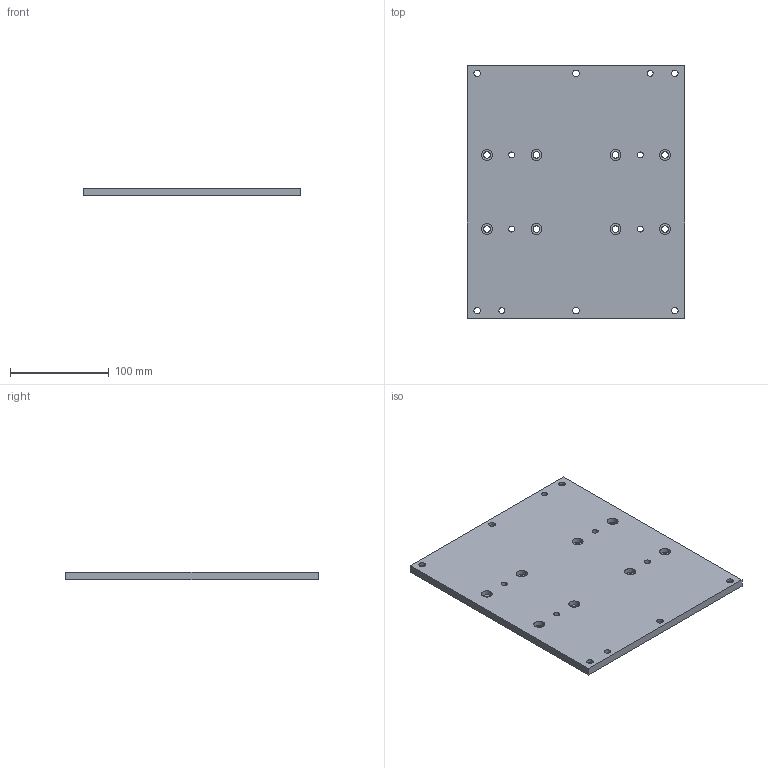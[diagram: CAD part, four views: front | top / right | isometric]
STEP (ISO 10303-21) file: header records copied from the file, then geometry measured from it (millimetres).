
FILE_DESCRIPTION (( 'STEP AP203' ), '1' );
FILE_NAME ('_-_PS7.step', '2005-09-07T12:56:58', ( ' ' ), ( ' ' ), 'SwSTEP 2.0', 'SolidWorks 2005187', '' );
FILE_SCHEMA (( 'CONFIG_CONTROL_DESIGN' ));
Length unit declared in the file: millimetre
Products named in the file (2): _-_PS7; TE1708 Schlittenplatte PS7_Standard
Assembly tree (1 placements, depth 2):
  _-_PS7
    TE1708 Schlittenplatte PS7_Standard
Bounding box: 220 x 255 x 8 mm (x, y, z)
Volume: 439353.6 mm3; surface area: 122697.4 mm2
Topology: 1 solids, 1 shells, 88 faces, 216 edges, 144 vertices
Faces by surface type: cylinder 68, plane 20
Entity records: 2952 total; most frequent: DIRECTION 536, CARTESIAN_POINT 452, ORIENTED_EDGE 432, AXIS2_PLACEMENT_3D 228, EDGE_CURVE 216, VERTEX_POINT 144, EDGE_LOOP 142, CIRCLE 136
